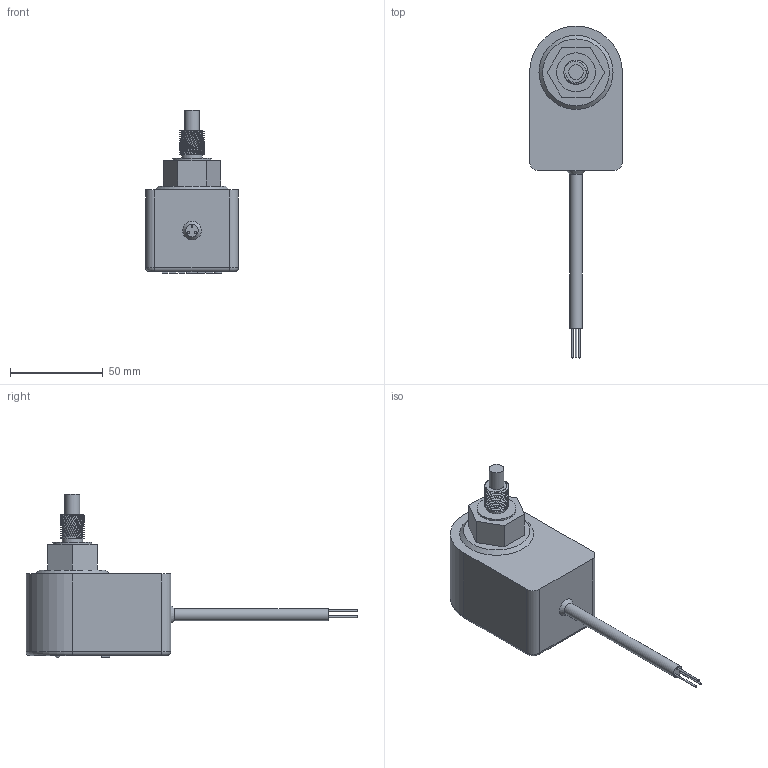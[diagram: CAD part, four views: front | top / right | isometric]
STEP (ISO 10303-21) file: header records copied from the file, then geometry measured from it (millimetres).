
FILE_DESCRIPTION(/* description */ (''),/* implementation_level */ '2;1');
FILE_NAME(/* name */ 'PLSX-1-4G-AN6D-C2.stp',/* time_stamp */ '2022-06-15T13:25:50+08:00',/* author */ (''),/* organization */ (''),/* preprocessor_version */ 'ST-DEVELOPER v16',/* originating_system */ 'SIEMENS PLM Software NX 10.0',/* authorisation */ '');
FILE_SCHEMA (('CONFIG_CONTROL_DESIGN'));
Length unit declared in the file: millimetre
Products named in the file (1): PLSX-G1-4-C2
Bounding box: 50 x 179 x 88.25 mm (x, y, z)
Volume: 175607.5 mm3; surface area: 22397.1 mm2
Topology: 1 solids, 1 shells, 142 faces, 357 edges, 237 vertices
Faces by surface type: plane 96, cylinder 16, extrusion 16, sphere 6, cone 3, torus 3, bspline 2
Full cylindrical faces by diameter (mm): 1 x3, 3 x1, 6.644 x1, 8 x1, 11 x1, 21 x1
Entity records: 5922 total; most frequent: CARTESIAN_POINT 2855, ORIENTED_EDGE 660, DIRECTION 472, EDGE_CURVE 330, VERTEX_POINT 227, B_SPLINE_CURVE_WITH_KNOTS 185, EDGE_LOOP 179, AXIS2_PLACEMENT_3D 170
